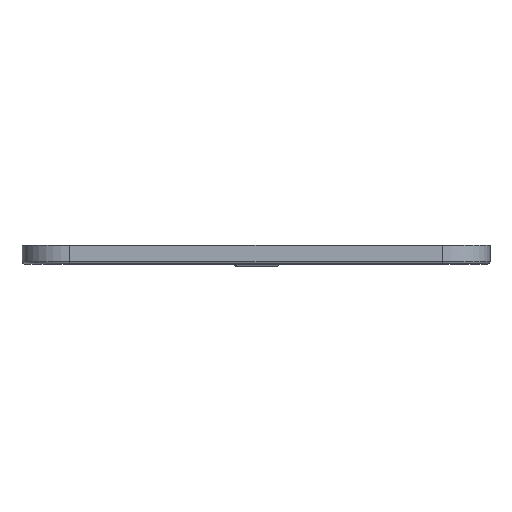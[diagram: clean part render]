
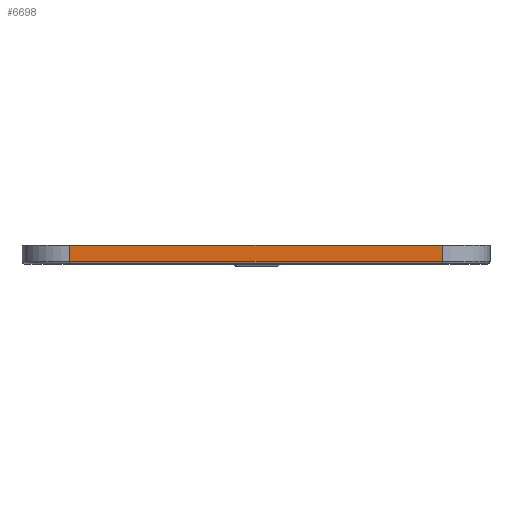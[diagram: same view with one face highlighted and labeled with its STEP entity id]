
A CAD part, left-side view. The second image highlights one B-rep face of the part: STEP entity #6698.
In plain terms, the highlighted planar face has unit normal (-1, 0, 0).
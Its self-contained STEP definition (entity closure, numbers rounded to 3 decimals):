
#73 = CARTESIAN_POINT ( 'NONE',  ( -91.301, 17.717, 142.801 ) ) ;
#74 = PLANE ( 'NONE',  #5419 ) ;
#83 = DIRECTION ( 'NONE',  ( -1., 0., 0. ) ) ;
#84 = DIRECTION ( 'NONE',  ( 0., 0., 1. ) ) ;
#1007 = EDGE_LOOP ( 'NONE', ( #3783, #3823, #3785, #3828 ) ) ;
#2543 = VERTEX_POINT ( 'NONE', #5836 ) ;
#2545 = VERTEX_POINT ( 'NONE', #5838 ) ;
#2549 = VERTEX_POINT ( 'NONE', #5842 ) ;
#2554 = VERTEX_POINT ( 'NONE', #5847 ) ;
#3082 = LINE ( 'NONE', #6513, #3088 ) ;
#3083 = LINE ( 'NONE', #6511, #3086 ) ;
#3086 = VECTOR ( 'NONE', #6514, 1000. ) ;
#3088 = VECTOR ( 'NONE', #6516, 1000. ) ;
#3091 = VECTOR ( 'NONE', #6526, 1000. ) ;
#3093 = LINE ( 'NONE', #6525, #3091 ) ;
#3249 = LINE ( 'NONE', #4291, #3250 ) ;
#3250 = VECTOR ( 'NONE', #4292, 1000. ) ;
#3567 = FACE_OUTER_BOUND ( 'NONE', #1007, .T. ) ;
#3783 = ORIENTED_EDGE ( 'NONE', *, *, #4944, .T. ) ;
#3785 = ORIENTED_EDGE ( 'NONE', *, *, #4945, .F. ) ;
#3823 = ORIENTED_EDGE ( 'NONE', *, *, #4950, .T. ) ;
#3828 = ORIENTED_EDGE ( 'NONE', *, *, #5049, .T. ) ;
#4291 = CARTESIAN_POINT ( 'NONE',  ( -91.301, 17.717, 2. ) ) ;
#4292 = DIRECTION ( 'NONE',  ( 0., 1., 0. ) ) ;
#4944 = EDGE_CURVE ( 'NONE', #2543, #2549, #3083, .T. ) ;
#4945 = EDGE_CURVE ( 'NONE', #2545, #2554, #3082, .T. ) ;
#4950 = EDGE_CURVE ( 'NONE', #2549, #2554, #3093, .T. ) ;
#5049 = EDGE_CURVE ( 'NONE', #2545, #2543, #3249, .T. ) ;
#5419 = AXIS2_PLACEMENT_3D ( 'NONE', #73, #83, #84 ) ;
#5836 = CARTESIAN_POINT ( 'NONE',  ( -91.301, 17.717, 2. ) ) ;
#5838 = CARTESIAN_POINT ( 'NONE',  ( -91.301, -21.283, 2. ) ) ;
#5842 = CARTESIAN_POINT ( 'NONE',  ( -91.301, 17.717, 0.3 ) ) ;
#5847 = CARTESIAN_POINT ( 'NONE',  ( -91.301, -21.283, 0.3 ) ) ;
#6511 = CARTESIAN_POINT ( 'NONE',  ( -91.301, 17.717, 142.801 ) ) ;
#6513 = CARTESIAN_POINT ( 'NONE',  ( -91.301, -21.283, 142.801 ) ) ;
#6514 = DIRECTION ( 'NONE',  ( 0., 0., -1. ) ) ;
#6516 = DIRECTION ( 'NONE',  ( 0., 0., -1. ) ) ;
#6525 = CARTESIAN_POINT ( 'NONE',  ( -91.301, -21.283, 0.3 ) ) ;
#6526 = DIRECTION ( 'NONE',  ( 0., -1., 0. ) ) ;
#6698 = ADVANCED_FACE ( 'NONE', ( #3567 ), #74, .T. ) ;
